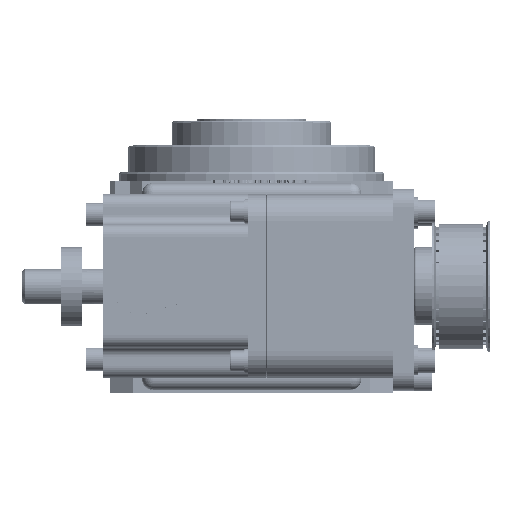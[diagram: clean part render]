
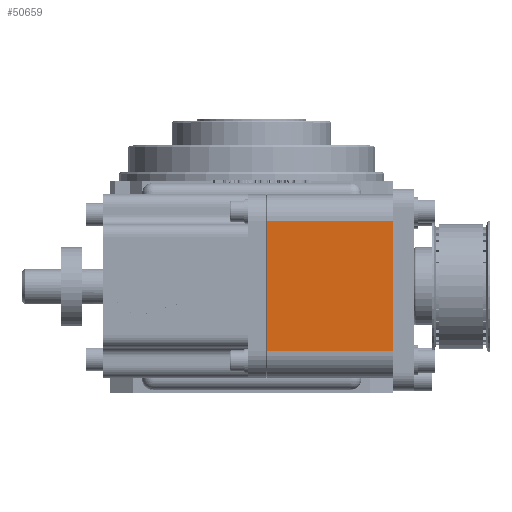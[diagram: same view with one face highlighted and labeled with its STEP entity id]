
A CAD part, top view. The second image highlights one B-rep face of the part: STEP entity #50659.
In plain terms, the highlighted planar face has unit normal (0, 0, 1).
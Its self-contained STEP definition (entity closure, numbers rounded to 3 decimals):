
#10608 = CARTESIAN_POINT ( 'NONE',  ( -71., 190., 177. ) ) ;
#10754 = LINE ( 'NONE', #11051, #46244 ) ;
#11051 = CARTESIAN_POINT ( 'NONE',  ( -72., 116., 177. ) ) ;
#18347 = ORIENTED_EDGE ( 'NONE', *, *, #162230, .T. ) ;
#18500 = CARTESIAN_POINT ( 'NONE',  ( -72., 190., 177. ) ) ;
#19907 = VERTEX_POINT ( 'NONE', #98950 ) ;
#28924 = CARTESIAN_POINT ( 'NONE',  ( -72., 190., 177. ) ) ;
#29509 = DIRECTION ( 'NONE',  ( 0., 0., -1. ) ) ;
#29607 = VERTEX_POINT ( 'NONE', #10608 ) ;
#30437 = ORIENTED_EDGE ( 'NONE', *, *, #140785, .F. ) ;
#35710 = LINE ( 'NONE', #36957, #137156 ) ;
#36957 = CARTESIAN_POINT ( 'NONE',  ( 0., 190., 177. ) ) ;
#46244 = VECTOR ( 'NONE', #117093, 1000. ) ;
#49414 = AXIS2_PLACEMENT_3D ( 'NONE', #28924, #29509, #122051 ) ;
#50659 = ADVANCED_FACE ( 'NONE', ( #57701 ), #108838, .F. ) ;
#57701 = FACE_OUTER_BOUND ( 'NONE', #131289, .T. ) ;
#60234 = VERTEX_POINT ( 'NONE', #118233 ) ;
#62025 = LINE ( 'NONE', #18500, #163161 ) ;
#87068 = VECTOR ( 'NONE', #152242, 1000. ) ;
#97364 = CARTESIAN_POINT ( 'NONE',  ( -71., 116., 177. ) ) ;
#98950 = CARTESIAN_POINT ( 'NONE',  ( 0., 190., 177. ) ) ;
#99656 = CARTESIAN_POINT ( 'NONE',  ( -71., 190., 177. ) ) ;
#107157 = ORIENTED_EDGE ( 'NONE', *, *, #150396, .F. ) ;
#108838 = PLANE ( 'NONE',  #49414 ) ;
#111193 = DIRECTION ( 'NONE',  ( 1., 0., 0. ) ) ;
#117093 = DIRECTION ( 'NONE',  ( -1., 0., 0. ) ) ;
#118233 = CARTESIAN_POINT ( 'NONE',  ( 0., 116., 177. ) ) ;
#122051 = DIRECTION ( 'NONE',  ( 0., 1., 0. ) ) ;
#122156 = LINE ( 'NONE', #99656, #87068 ) ;
#129537 = DIRECTION ( 'NONE',  ( 0., -1., 0. ) ) ;
#131289 = EDGE_LOOP ( 'NONE', ( #146810, #30437, #107157, #18347 ) ) ;
#137156 = VECTOR ( 'NONE', #129537, 1000. ) ;
#140785 = EDGE_CURVE ( 'NONE', #19907, #60234, #35710, .T. ) ;
#146810 = ORIENTED_EDGE ( 'NONE', *, *, #160236, .F. ) ;
#150396 = EDGE_CURVE ( 'NONE', #29607, #19907, #62025, .T. ) ;
#152242 = DIRECTION ( 'NONE',  ( 0., -1., 0. ) ) ;
#156882 = VERTEX_POINT ( 'NONE', #97364 ) ;
#160236 = EDGE_CURVE ( 'NONE', #60234, #156882, #10754, .T. ) ;
#162230 = EDGE_CURVE ( 'NONE', #29607, #156882, #122156, .T. ) ;
#163161 = VECTOR ( 'NONE', #111193, 1000. ) ;
